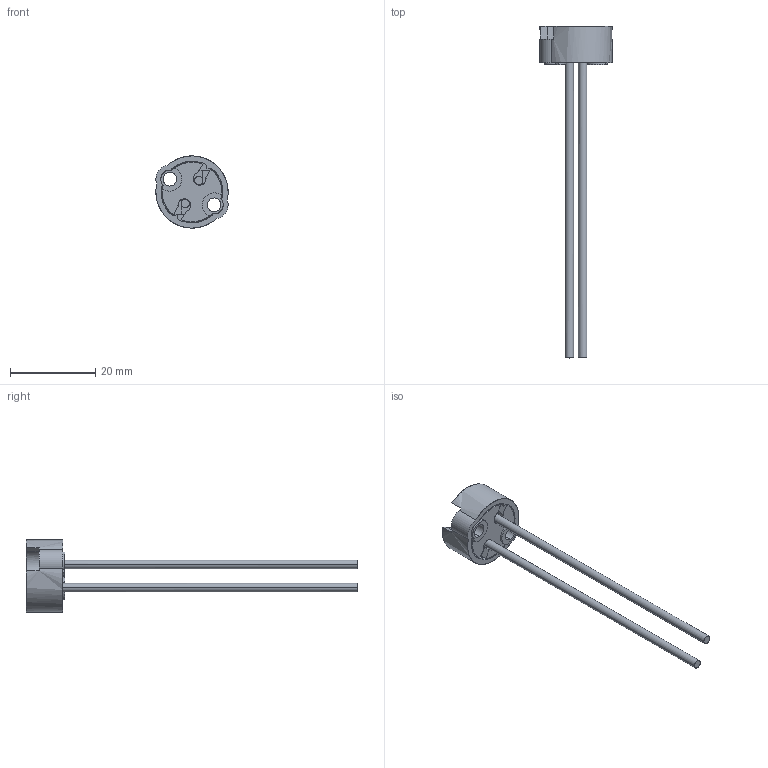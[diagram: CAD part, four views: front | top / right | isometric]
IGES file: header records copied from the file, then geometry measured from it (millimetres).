
Global section: file name: C:\coretechnologie2012\in/002Y020Y0C.igs; native system: CT CoreTechnologie 3D Evolution; preprocessor: 2006; author: assmuth; date: 1120923.122208; units: millimetre
Bounding box: 17 x 78.1 x 16.99 mm (x, y, z)
Surface area: 2435.2 mm2 (no closed solid volume)
Topology: 0 solids, 0 shells, 186 faces, 982 edges, 982 vertices
Faces by surface type: bspline 186
